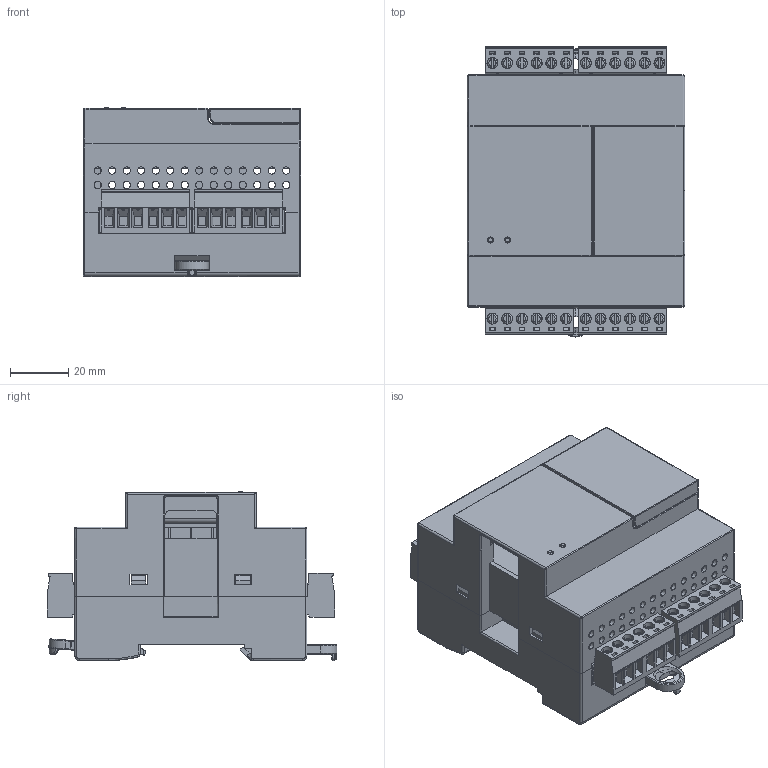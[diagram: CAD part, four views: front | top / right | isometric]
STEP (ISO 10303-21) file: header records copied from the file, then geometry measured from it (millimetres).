
FILE_DESCRIPTION (( 'STEP AP203' ), '1' );
FILE_NAME ('SMRE-IO短款-装配体-V1.0（75X80X58）.STEP', '2024-09-20T09:16:43', ( '' ), ( '' ), 'SwSTEP 2.0', 'SolidWorks 2018', '' );
FILE_SCHEMA (( 'CONFIG_CONTROL_DESIGN' ));
Length unit declared in the file: millimetre
Products named in the file (13): DDC-7P絳嫖翐-G2P; SMRE-IO傻遴-PCB2-V1.0; SMRE-IO傻遴-SG-V1.0; SMRE-IO傻遴-XG-V1.0; 縐諶1; SMRE-IO傻遴-PCB1-V1.0; TP-508-6P-蚾饜极; SMRE-SR1-FG-V1.0; HA05-00C+PA05-00A-6P-C; JL2EDGRC-5.08-6P-MT; COMPOUND.step-12_1.stp.SLDPRT.stp.STEP-1; SMRE-IO短款-装配体-V1.0（75X80X58）; 縐諶2
Assembly tree (15 placements, depth 3):
  SMRE-IO短款-装配体-V1.0（75X80X58）
    SMRE-IO傻遴-XG-V1.0
    SMRE-IO傻遴-SG-V1.0
    SMRE-SR1-FG-V1.0
    SMRE-IO傻遴-PCB2-V1.0
    DDC-7P絳嫖翐-G2P
    COMPOUND.step-12_1.stp.SLDPRT.stp.STEP-1
    SMRE-IO傻遴-PCB1-V1.0
    縐諶1
    縐諶2
    TP-508-6P-蚾饜极  x4
      JL2EDGRC-5.08-6P-MT
      HA05-00C+PA05-00A-6P-C
Bounding box: 75.03 x 99.95 x 58.3 mm (x, y, z)
Volume: 103621.6 mm3; surface area: 115318.4 mm2
Topology: 30 solids, 118 shells, 6077 faces, 16077 edges, 10291 vertices
Faces by surface type: plane 4032, cylinder 1447, cone 226, sphere 150, bspline 125, torus 97
Entity records: 98929 total; most frequent: CARTESIAN_POINT 28290, ORIENTED_EDGE 15840, DIRECTION 12449, EDGE_CURVE 7920, VERTEX_POINT 5059, AXIS2_PLACEMENT_3D 4238, VECTOR 3973, LINE 3973
